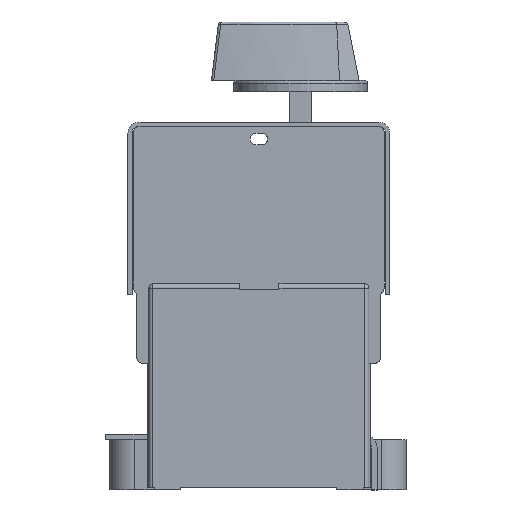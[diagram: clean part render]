
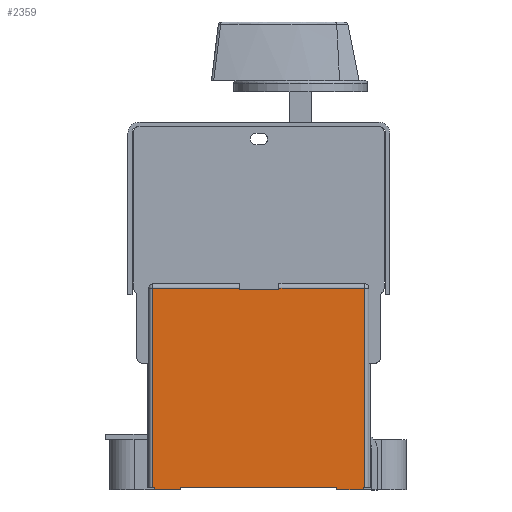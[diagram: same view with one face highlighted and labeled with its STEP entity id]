
A CAD part, left-side view. The second image highlights one B-rep face of the part: STEP entity #2359.
In plain terms, the highlighted planar face has unit normal (-1, 0, 0).
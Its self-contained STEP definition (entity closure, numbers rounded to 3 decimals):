
#2359=ADVANCED_FACE('',(#3971),#3028,.F.);
#3028=PLANE('',#21415);
#3971=FACE_OUTER_BOUND('',#5167,.T.);
#5167=EDGE_LOOP('',(#10282,#10283,#10284,#10285,#10286,#10287,#10288,#10289,
#10290,#10291,#10292,#10293,#10294,#10295,#10296,#10297));
#10282=ORIENTED_EDGE('',*,*,#15526,.F.);
#10283=ORIENTED_EDGE('',*,*,#15316,.T.);
#10284=ORIENTED_EDGE('',*,*,#15140,.T.);
#10285=ORIENTED_EDGE('',*,*,#15528,.F.);
#10286=ORIENTED_EDGE('',*,*,#15143,.T.);
#10287=ORIENTED_EDGE('',*,*,#15276,.T.);
#10288=ORIENTED_EDGE('',*,*,#15529,.T.);
#10289=ORIENTED_EDGE('',*,*,#15530,.T.);
#10290=ORIENTED_EDGE('',*,*,#15531,.F.);
#10291=ORIENTED_EDGE('',*,*,#15363,.F.);
#10292=ORIENTED_EDGE('',*,*,#15368,.T.);
#10293=ORIENTED_EDGE('',*,*,#15532,.T.);
#10294=ORIENTED_EDGE('',*,*,#15376,.F.);
#10295=ORIENTED_EDGE('',*,*,#15370,.F.);
#10296=ORIENTED_EDGE('',*,*,#15533,.T.);
#10297=ORIENTED_EDGE('',*,*,#15534,.T.);
#12535=VERTEX_POINT('',#32116);
#12536=VERTEX_POINT('',#32118);
#12538=VERTEX_POINT('',#32124);
#12539=VERTEX_POINT('',#32125);
#12627=VERTEX_POINT('',#32430);
#12628=VERTEX_POINT('',#32434);
#12674=VERTEX_POINT('',#32615);
#12675=VERTEX_POINT('',#32616);
#12679=VERTEX_POINT('',#32625);
#12680=VERTEX_POINT('',#32630);
#12681=VERTEX_POINT('',#32631);
#12684=VERTEX_POINT('',#32639);
#12775=VERTEX_POINT('',#32927);
#12776=VERTEX_POINT('',#32932);
#12777=VERTEX_POINT('',#32934);
#12778=VERTEX_POINT('',#32938);
#15140=EDGE_CURVE('',#12536,#12535,#17346,.T.);
#15143=EDGE_CURVE('',#12538,#12539,#17348,.T.);
#15276=EDGE_CURVE('',#12539,#12628,#17418,.T.);
#15316=EDGE_CURVE('',#12627,#12536,#17434,.T.);
#15363=EDGE_CURVE('',#12674,#12675,#17469,.T.);
#15368=EDGE_CURVE('',#12674,#12679,#17474,.T.);
#15370=EDGE_CURVE('',#12680,#12681,#17476,.T.);
#15376=EDGE_CURVE('',#12681,#12684,#17482,.T.);
#15526=EDGE_CURVE('',#12627,#12775,#17619,.T.);
#15528=EDGE_CURVE('',#12538,#12535,#17620,.T.);
#15529=EDGE_CURVE('',#12628,#12776,#17621,.T.);
#15530=EDGE_CURVE('',#12776,#12777,#17622,.T.);
#15531=EDGE_CURVE('',#12675,#12777,#17623,.T.);
#15532=EDGE_CURVE('',#12679,#12684,#17624,.T.);
#15533=EDGE_CURVE('',#12680,#12778,#17625,.T.);
#15534=EDGE_CURVE('',#12778,#12775,#17626,.T.);
#17346=LINE('',#32117,#19425);
#17348=LINE('',#32123,#19427);
#17418=LINE('',#32435,#19497);
#17434=LINE('',#32515,#19513);
#17469=LINE('',#32614,#19548);
#17474=LINE('',#32626,#19553);
#17476=LINE('',#32629,#19555);
#17482=LINE('',#32642,#19561);
#17619=LINE('',#32926,#19698);
#17620=LINE('',#32930,#19699);
#17621=LINE('',#32931,#19700);
#17622=LINE('',#32933,#19701);
#17623=LINE('',#32935,#19702);
#17624=LINE('',#32936,#19703);
#17625=LINE('',#32937,#19704);
#17626=LINE('',#32939,#19705);
#19425=VECTOR('',#25850,1.);
#19427=VECTOR('',#25856,1.);
#19497=VECTOR('',#26144,1.);
#19513=VECTOR('',#26256,1.);
#19548=VECTOR('',#26361,1.);
#19553=VECTOR('',#26368,1.);
#19555=VECTOR('',#26372,1.);
#19561=VECTOR('',#26380,1.);
#19698=VECTOR('',#26633,1.);
#19699=VECTOR('',#26638,1.);
#19700=VECTOR('',#26639,1.);
#19701=VECTOR('',#26640,1.);
#19702=VECTOR('',#26641,1.);
#19703=VECTOR('',#26642,1.);
#19704=VECTOR('',#26643,1.);
#19705=VECTOR('',#26644,1.);
#21415=AXIS2_PLACEMENT_3D('',#32940,#26645,#26646);
#25850=DIRECTION('',(0.,0.,-1.));
#25856=DIRECTION('',(0.,0.,1.));
#26144=DIRECTION('',(0.,1.,0.));
#26256=DIRECTION('',(0.,1.,0.));
#26361=DIRECTION('',(0.,1.,0.));
#26368=DIRECTION('',(0.,0.,1.));
#26372=DIRECTION('',(0.,1.,0.));
#26380=DIRECTION('',(0.,0.,1.));
#26633=DIRECTION('',(0.,0.,-1.));
#26638=DIRECTION('',(0.,-1.,0.));
#26639=DIRECTION('',(0.,0.,-1.));
#26640=DIRECTION('',(0.,-1.,0.));
#26641=DIRECTION('',(0.,0.,1.));
#26642=DIRECTION('',(0.,-1.,0.));
#26643=DIRECTION('',(0.,0.,1.));
#26644=DIRECTION('',(0.,-1.,0.));
#26645=DIRECTION('',(1.,0.,0.));
#26646=DIRECTION('',(0.,0.,-1.));
#32116=CARTESIAN_POINT('',(-69.,-31.985,67.));
#32117=CARTESIAN_POINT('',(-69.,-31.985,69.1));
#32118=CARTESIAN_POINT('',(-69.,-31.985,67.6));
#32123=CARTESIAN_POINT('',(-69.,-17.985,69.1));
#32124=CARTESIAN_POINT('',(-69.,-17.985,67.));
#32125=CARTESIAN_POINT('',(-69.,-17.985,67.6));
#32430=CARTESIAN_POINT('',(-69.,-62.735,67.6));
#32434=CARTESIAN_POINT('',(-69.,13.265,67.6));
#32435=CARTESIAN_POINT('',(-69.,13.265,67.6));
#32515=CARTESIAN_POINT('',(-69.,13.265,67.6));
#32614=CARTESIAN_POINT('',(-69.,3.265,-4.9));
#32615=CARTESIAN_POINT('',(-69.,3.265,-4.9));
#32616=CARTESIAN_POINT('',(-69.,12.765,-4.9));
#32625=CARTESIAN_POINT('',(-69.,3.265,-3.9));
#32626=CARTESIAN_POINT('',(-69.,3.265,-5.9));
#32629=CARTESIAN_POINT('',(-69.,-62.235,-4.9));
#32630=CARTESIAN_POINT('',(-69.,-62.235,-4.9));
#32631=CARTESIAN_POINT('',(-69.,-52.735,-4.9));
#32639=CARTESIAN_POINT('',(-69.,-52.735,-3.9));
#32642=CARTESIAN_POINT('',(-69.,-52.735,-5.9));
#32926=CARTESIAN_POINT('',(-69.,-62.735,69.1));
#32927=CARTESIAN_POINT('',(-69.,-62.735,-3.9));
#32930=CARTESIAN_POINT('',(-69.,12.765,67.));
#32931=CARTESIAN_POINT('',(-69.,13.265,69.1));
#32932=CARTESIAN_POINT('',(-69.,13.265,-3.9));
#32933=CARTESIAN_POINT('',(-69.,-62.235,-3.9));
#32934=CARTESIAN_POINT('',(-69.,12.765,-3.9));
#32935=CARTESIAN_POINT('',(-69.,12.765,-5.9));
#32936=CARTESIAN_POINT('',(-69.,-62.235,-3.9));
#32937=CARTESIAN_POINT('',(-69.,-62.235,-5.9));
#32938=CARTESIAN_POINT('',(-69.,-62.235,-3.9));
#32939=CARTESIAN_POINT('',(-69.,-62.235,-3.9));
#32940=CARTESIAN_POINT('',(-69.,-62.235,69.1));
